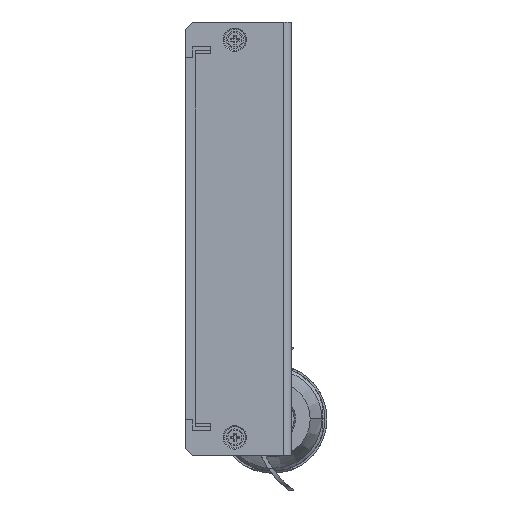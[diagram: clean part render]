
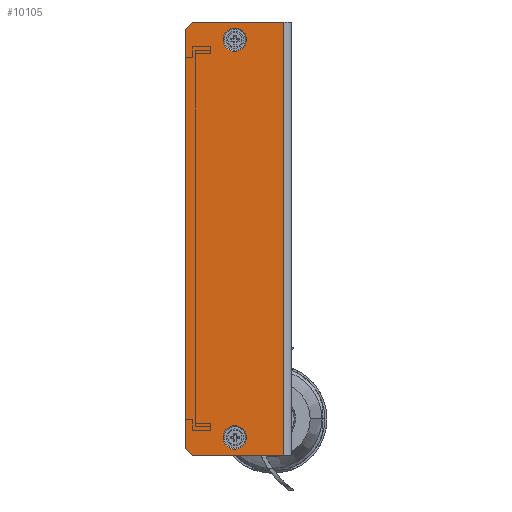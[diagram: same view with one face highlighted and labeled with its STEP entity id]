
A CAD part, left-side view. The second image highlights one B-rep face of the part: STEP entity #10105.
In plain terms, the highlighted planar face has unit normal (-1, 0, 0).
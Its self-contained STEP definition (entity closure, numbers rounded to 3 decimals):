
#22 = EDGE_CURVE ( 'NONE', #30968, #24236, #28199, .T. ) ;
#224 = CARTESIAN_POINT ( 'NONE',  ( -31., 7., -29.65 ) ) ;
#398 = LINE ( 'NONE', #26389, #21460 ) ;
#423 = CARTESIAN_POINT ( 'NONE',  ( -31., 14., -29.5 ) ) ;
#606 = ORIENTED_EDGE ( 'NONE', *, *, #3587, .F. ) ;
#1165 = ORIENTED_EDGE ( 'NONE', *, *, #12880, .F. ) ;
#1200 = VERTEX_POINT ( 'NONE', #1903 ) ;
#1249 = CARTESIAN_POINT ( 'NONE',  ( -31., 14., 30.5 ) ) ;
#1398 = CIRCLE ( 'NONE', #13652, 1.65 ) ;
#1903 = CARTESIAN_POINT ( 'NONE',  ( -31., 7., 29.65 ) ) ;
#3587 = EDGE_CURVE ( 'NONE', #19961, #6901, #398, .T. ) ;
#3769 = EDGE_LOOP ( 'NONE', ( #1165, #11840 ) ) ;
#3795 = AXIS2_PLACEMENT_3D ( 'NONE', #1249, #6066, #18340 ) ;
#3993 = DIRECTION ( 'NONE',  ( 0., 0., 1. ) ) ;
#5218 = DIRECTION ( 'NONE',  ( 0., 0., 1. ) ) ;
#5529 = EDGE_CURVE ( 'NONE', #19961, #17210, #28426, .T. ) ;
#5704 = DIRECTION ( 'NONE',  ( 0., 0., 1. ) ) ;
#5720 = LINE ( 'NONE', #24744, #27423 ) ;
#5942 = DIRECTION ( 'NONE',  ( 0., 0., -1. ) ) ;
#6066 = DIRECTION ( 'NONE',  ( 1., 0., 0. ) ) ;
#6779 = VECTOR ( 'NONE', #5942, 1000. ) ;
#6901 = VERTEX_POINT ( 'NONE', #11798 ) ;
#7064 = CARTESIAN_POINT ( 'NONE',  ( -31., 14., -30.5 ) ) ;
#7162 = CARTESIAN_POINT ( 'NONE',  ( -31., 14., 29.5 ) ) ;
#7456 = CARTESIAN_POINT ( 'NONE',  ( -31., 7., 28. ) ) ;
#7661 = DIRECTION ( 'NONE',  ( 0., -0.707, -0.707 ) ) ;
#8024 = VERTEX_POINT ( 'NONE', #17696 ) ;
#8045 = LINE ( 'NONE', #17758, #6779 ) ;
#8400 = CARTESIAN_POINT ( 'NONE',  ( -31., 13., -30.5 ) ) ;
#8443 = EDGE_LOOP ( 'NONE', ( #17891, #28863 ) ) ;
#9262 = DIRECTION ( 'NONE',  ( -1., 0., 0. ) ) ;
#9423 = CARTESIAN_POINT ( 'NONE',  ( -31., 7., -28. ) ) ;
#9460 = DIRECTION ( 'NONE',  ( 0., -1., 0. ) ) ;
#9779 = CARTESIAN_POINT ( 'NONE',  ( -31., 0.1, -30.5 ) ) ;
#9805 = CARTESIAN_POINT ( 'NONE',  ( -31., 14., 29.5 ) ) ;
#10105 = ADVANCED_FACE ( 'NONE', ( #20750, #25877, #23142 ), #23303, .F. ) ;
#10478 = ORIENTED_EDGE ( 'NONE', *, *, #22015, .T. ) ;
#10591 = VECTOR ( 'NONE', #28747, 1000. ) ;
#11674 = EDGE_LOOP ( 'NONE', ( #19300, #31568, #10478, #13236, #606, #27763 ) ) ;
#11783 = EDGE_CURVE ( 'NONE', #8024, #1200, #31607, .T. ) ;
#11798 = CARTESIAN_POINT ( 'NONE',  ( -31., 0.1, 30.5 ) ) ;
#11828 = DIRECTION ( 'NONE',  ( 0., -1., 0. ) ) ;
#11840 = ORIENTED_EDGE ( 'NONE', *, *, #11783, .F. ) ;
#12370 = AXIS2_PLACEMENT_3D ( 'NONE', #9423, #9262, #23632 ) ;
#12451 = LINE ( 'NONE', #7064, #23068 ) ;
#12880 = EDGE_CURVE ( 'NONE', #1200, #8024, #1398, .T. ) ;
#13236 = ORIENTED_EDGE ( 'NONE', *, *, #17291, .F. ) ;
#13400 = CARTESIAN_POINT ( 'NONE',  ( -31., 7., 28. ) ) ;
#13581 = EDGE_CURVE ( 'NONE', #24236, #30968, #19396, .T. ) ;
#13602 = VERTEX_POINT ( 'NONE', #423 ) ;
#13652 = AXIS2_PLACEMENT_3D ( 'NONE', #13400, #28295, #3993 ) ;
#13689 = AXIS2_PLACEMENT_3D ( 'NONE', #7456, #27108, #5218 ) ;
#14804 = AXIS2_PLACEMENT_3D ( 'NONE', #15111, #17670, #5704 ) ;
#15111 = CARTESIAN_POINT ( 'NONE',  ( -31., 7., -28. ) ) ;
#15873 = VECTOR ( 'NONE', #24006, 1000. ) ;
#16096 = EDGE_CURVE ( 'NONE', #17210, #13602, #23217, .T. ) ;
#17210 = VERTEX_POINT ( 'NONE', #9805 ) ;
#17291 = EDGE_CURVE ( 'NONE', #6901, #18555, #8045, .T. ) ;
#17670 = DIRECTION ( 'NONE',  ( -1., 0., 0. ) ) ;
#17696 = CARTESIAN_POINT ( 'NONE',  ( -31., 7., 26.35 ) ) ;
#17758 = CARTESIAN_POINT ( 'NONE',  ( -31., 0.1, 30.5 ) ) ;
#17891 = ORIENTED_EDGE ( 'NONE', *, *, #13581, .F. ) ;
#18340 = DIRECTION ( 'NONE',  ( 0., 0., -1. ) ) ;
#18555 = VERTEX_POINT ( 'NONE', #9779 ) ;
#19300 = ORIENTED_EDGE ( 'NONE', *, *, #16096, .T. ) ;
#19396 = CIRCLE ( 'NONE', #14804, 1.65 ) ;
#19961 = VERTEX_POINT ( 'NONE', #30634 ) ;
#20750 = FACE_BOUND ( 'NONE', #3769, .T. ) ;
#21460 = VECTOR ( 'NONE', #9460, 1000. ) ;
#22015 = EDGE_CURVE ( 'NONE', #22393, #18555, #12451, .T. ) ;
#22393 = VERTEX_POINT ( 'NONE', #8400 ) ;
#23068 = VECTOR ( 'NONE', #11828, 1000. ) ;
#23142 = FACE_BOUND ( 'NONE', #8443, .T. ) ;
#23213 = EDGE_CURVE ( 'NONE', #13602, #22393, #5720, .T. ) ;
#23217 = LINE ( 'NONE', #23703, #15873 ) ;
#23303 = PLANE ( 'NONE',  #3795 ) ;
#23610 = CARTESIAN_POINT ( 'NONE',  ( -31., 7., -26.35 ) ) ;
#23632 = DIRECTION ( 'NONE',  ( 0., 0., 1. ) ) ;
#23703 = CARTESIAN_POINT ( 'NONE',  ( -31., 14., 30.5 ) ) ;
#24006 = DIRECTION ( 'NONE',  ( 0., 0., -1. ) ) ;
#24236 = VERTEX_POINT ( 'NONE', #23610 ) ;
#24744 = CARTESIAN_POINT ( 'NONE',  ( -31., 13., -30.5 ) ) ;
#25877 = FACE_OUTER_BOUND ( 'NONE', #11674, .T. ) ;
#26389 = CARTESIAN_POINT ( 'NONE',  ( -31., 14., 30.5 ) ) ;
#27108 = DIRECTION ( 'NONE',  ( -1., 0., 0. ) ) ;
#27423 = VECTOR ( 'NONE', #7661, 1000. ) ;
#27763 = ORIENTED_EDGE ( 'NONE', *, *, #5529, .T. ) ;
#28199 = CIRCLE ( 'NONE', #12370, 1.65 ) ;
#28295 = DIRECTION ( 'NONE',  ( -1., 0., 0. ) ) ;
#28426 = LINE ( 'NONE', #7162, #10591 ) ;
#28747 = DIRECTION ( 'NONE',  ( 0., 0.707, -0.707 ) ) ;
#28863 = ORIENTED_EDGE ( 'NONE', *, *, #22, .F. ) ;
#30634 = CARTESIAN_POINT ( 'NONE',  ( -31., 13., 30.5 ) ) ;
#30968 = VERTEX_POINT ( 'NONE', #224 ) ;
#31568 = ORIENTED_EDGE ( 'NONE', *, *, #23213, .T. ) ;
#31607 = CIRCLE ( 'NONE', #13689, 1.65 ) ;
